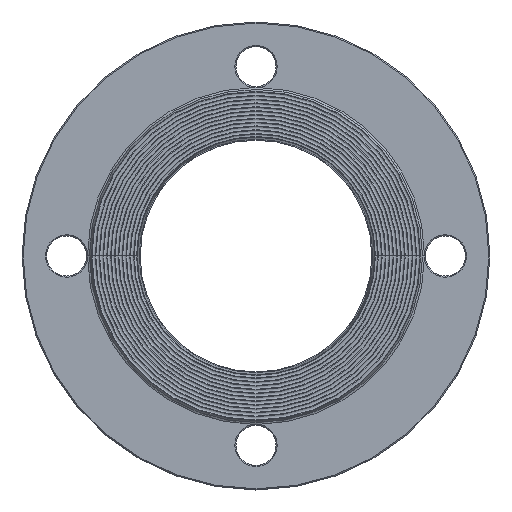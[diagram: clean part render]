
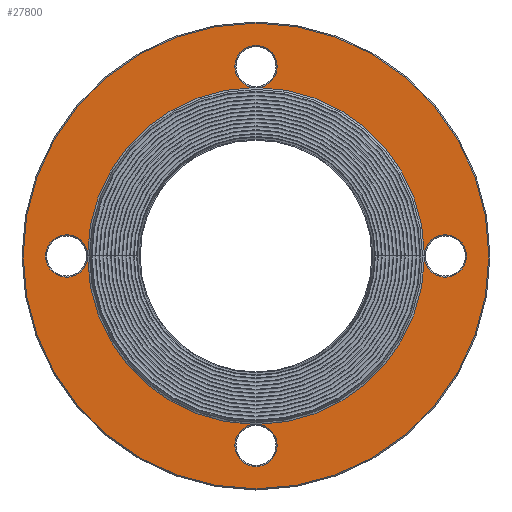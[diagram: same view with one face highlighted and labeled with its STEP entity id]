
A CAD part, top view. The second image highlights one B-rep face of the part: STEP entity #27800.
In plain terms, the highlighted planar face has unit normal (0, 0, 1).
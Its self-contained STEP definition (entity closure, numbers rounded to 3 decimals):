
#3900=CARTESIAN_POINT('',(34.422,111.215,
15.793));
#3910=VERTEX_POINT('',#3900);
#3940=CARTESIAN_POINT('',(110.,110.,15.793));
#3950=DIRECTION('',(0.,0.,1.));
#3960=DIRECTION('',(-1.,0.,0.));
#3970=AXIS2_PLACEMENT_3D('',#3940,#3950,#3960);
#3980=CIRCLE('',#3970,75.588);
#3990=CARTESIAN_POINT('',(108.785,185.578,
15.793));
#4000=VERTEX_POINT('',#3990);
#4010=EDGE_CURVE('',#4000,#3910,#3980,.T.);
#4530=CARTESIAN_POINT('',(111.215,185.578,
15.793));
#4540=VERTEX_POINT('',#4530);
#4570=CARTESIAN_POINT('',(185.578,111.215,
15.793));
#4580=VERTEX_POINT('',#4570);
#4590=EDGE_CURVE('',#4580,#4540,#3980,.T.);
#15450=CARTESIAN_POINT('',(108.785,34.422,
15.793));
#15460=VERTEX_POINT('',#15450);
#15470=CARTESIAN_POINT('',(111.215,34.422,
15.793));
#15480=VERTEX_POINT('',#15470);
#15510=CARTESIAN_POINT('',(34.422,108.785,
15.793));
#15520=VERTEX_POINT('',#15510);
#15530=EDGE_CURVE('',#15520,#15460,#3980,.T.);
#16080=CARTESIAN_POINT('',(185.578,108.785,
15.793));
#16090=VERTEX_POINT('',#16080);
#16120=EDGE_CURVE('',#15480,#16090,#3980,.T.);
#24680=CARTESIAN_POINT('',(119.5,195.,15.793));
#24690=VERTEX_POINT('',#24680);
#24720=CARTESIAN_POINT('',(110.,195.,15.793));
#24730=DIRECTION('',(0.,0.,1.));
#24740=DIRECTION('',(1.,0.,0.));
#24750=AXIS2_PLACEMENT_3D('',#24720,#24730,#24740);
#24760=CIRCLE('',#24750,9.5);
#24770=EDGE_CURVE('',#4540,#24690,#24760,.T.);
#24800=CARTESIAN_POINT('',(100.5,195.,15.793));
#24810=VERTEX_POINT('',#24800);
#24820=EDGE_CURVE('',#24810,#4000,#24760,.T.);
#25140=EDGE_CURVE('',#24690,#24810,#24760,.T.);
#25610=CARTESIAN_POINT('',(204.5,110.,15.793));
#25620=VERTEX_POINT('',#25610);
#25650=CARTESIAN_POINT('',(195.,110.,15.793));
#25660=DIRECTION('',(0.,0.,1.));
#25670=DIRECTION('',(1.,0.,0.));
#25680=AXIS2_PLACEMENT_3D('',#25650,#25660,#25670);
#25690=CIRCLE('',#25680,9.5);
#25700=EDGE_CURVE('',#16090,#25620,#25690,.T.);
#25930=EDGE_CURVE('',#25620,#4580,#25690,.T.);
#26540=CARTESIAN_POINT('',(25.,110.,15.793));
#26550=DIRECTION('',(0.,0.,1.));
#26560=DIRECTION('',(1.,0.,0.));
#26570=AXIS2_PLACEMENT_3D('',#26540,#26550,#26560);
#26580=CIRCLE('',#26570,9.5);
#26590=CARTESIAN_POINT('',(15.5,110.,15.793));
#26600=VERTEX_POINT('',#26590);
#26610=EDGE_CURVE('',#26600,#15520,#26580,.T.);
#26810=EDGE_CURVE('',#3910,#26600,#26580,.T.);
#27320=CARTESIAN_POINT('',(18.205,110.,15.793));
#27330=DIRECTION('',(0.,0.,-1.));
#27340=DIRECTION('',(-1.,0.,0.));
#27350=AXIS2_PLACEMENT_3D('',#27320,#27330,#27340);
#27360=PLANE('',#27350);
#27370=CARTESIAN_POINT('',(110.,25.,15.793));
#27380=DIRECTION('',(0.,0.,1.));
#27390=DIRECTION('',(1.,0.,0.));
#27400=AXIS2_PLACEMENT_3D('',#27370,#27380,#27390);
#27410=CIRCLE('',#27400,9.5);
#27420=CARTESIAN_POINT('',(100.5,25.,15.793));
#27430=VERTEX_POINT('',#27420);
#27440=EDGE_CURVE('',#15460,#27430,#27410,.T.);
#27450=ORIENTED_EDGE('',*,*,#27440,.F.);
#27460=CARTESIAN_POINT('',(119.5,25.,15.793));
#27470=VERTEX_POINT('',#27460);
#27480=EDGE_CURVE('',#27430,#27470,#27410,.T.);
#27490=ORIENTED_EDGE('',*,*,#27480,.F.);
#27500=EDGE_CURVE('',#27470,#15480,#27410,.T.);
#27510=ORIENTED_EDGE('',*,*,#27500,.F.);
#27520=ORIENTED_EDGE('',*,*,#16120,.F.);
#27530=ORIENTED_EDGE('',*,*,#25700,.F.);
#27540=ORIENTED_EDGE('',*,*,#25930,.F.);
#27550=ORIENTED_EDGE('',*,*,#4590,.F.);
#27560=ORIENTED_EDGE('',*,*,#24770,.F.);
#27570=ORIENTED_EDGE('',*,*,#25140,.F.);
#27580=ORIENTED_EDGE('',*,*,#24820,.F.);
#27590=ORIENTED_EDGE('',*,*,#4010,.F.);
#27600=ORIENTED_EDGE('',*,*,#26810,.F.);
#27610=ORIENTED_EDGE('',*,*,#26610,.F.);
#27620=ORIENTED_EDGE('',*,*,#15530,.F.);
#27630=EDGE_LOOP('',(#27620,#27610,#27600,#27590,#27580,#27570,#27560,
#27550,#27540,#27530,#27520,#27510,#27490,#27450));
#27640=FACE_BOUND('',#27630,.T.);
#27650=CARTESIAN_POINT('',(110.,110.,15.793));
#27660=DIRECTION('',(0.,0.,1.));
#27670=DIRECTION('',(1.,0.,0.));
#27680=AXIS2_PLACEMENT_3D('',#27650,#27660,#27670);
#27690=CIRCLE('',#27680,104.5);
#27700=CARTESIAN_POINT('',(214.5,110.,15.793));
#27710=VERTEX_POINT('',#27700);
#27720=CARTESIAN_POINT('',(5.5,110.,15.793));
#27730=VERTEX_POINT('',#27720);
#27740=EDGE_CURVE('',#27710,#27730,#27690,.T.);
#27750=ORIENTED_EDGE('',*,*,#27740,.T.);
#27760=EDGE_CURVE('',#27730,#27710,#27690,.T.);
#27770=ORIENTED_EDGE('',*,*,#27760,.T.);
#27780=EDGE_LOOP('',(#27770,#27750));
#27790=FACE_OUTER_BOUND('',#27780,.T.);
#27800=ADVANCED_FACE('',(#27640,#27790),#27360,.F.);
